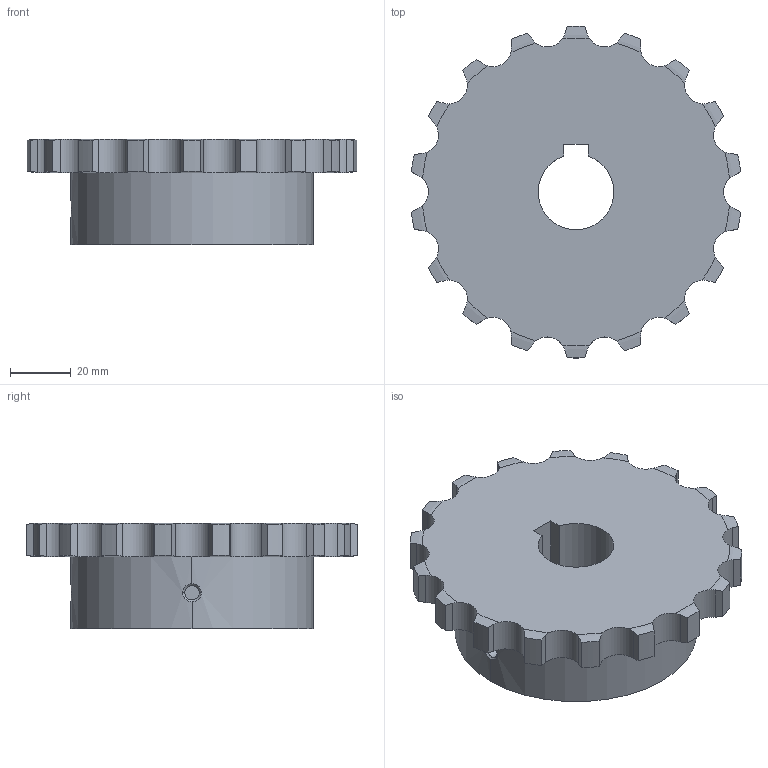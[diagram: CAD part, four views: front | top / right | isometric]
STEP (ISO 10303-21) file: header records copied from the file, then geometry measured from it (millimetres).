
FILE_DESCRIPTION((''),'2;1');
FILE_NAME('510-401-2518_PRT','2021-02-13T',('Brieden'),('Brieden'),'PRO/ENGINEER BY PARAMETRIC TECHNOLOGY CORPORATION, 2010160','PRO/ENGINEER BY PARAMETRIC TECHNOLOGY CORPORATION, 2010160','');
FILE_SCHEMA(('AUTOMOTIVE_DESIGN { 1 0 10303 214 1 1 1 1 }'));
Length unit declared in the file: millimetre
Products named in the file (1): 510-401-2518_PRT
Bounding box: 108.9 x 109.69 x 35 mm (x, y, z)
Volume: 194712.3 mm3; surface area: 29988.7 mm2
Topology: 1 solids, 1 shells, 129 faces, 369 edges, 244 vertices
Faces by surface type: cylinder 79, torus 36, plane 8, bspline 6
Entity records: 6268 total; most frequent: CARTESIAN_POINT 1929, ORIENTED_EDGE 738, DIRECTION 577, PRESENTATION_STYLE_ASSIGNMENT 370, STYLED_ITEM 370, CURVE_STYLE 369, EDGE_CURVE 369, VERTEX_POINT 244
